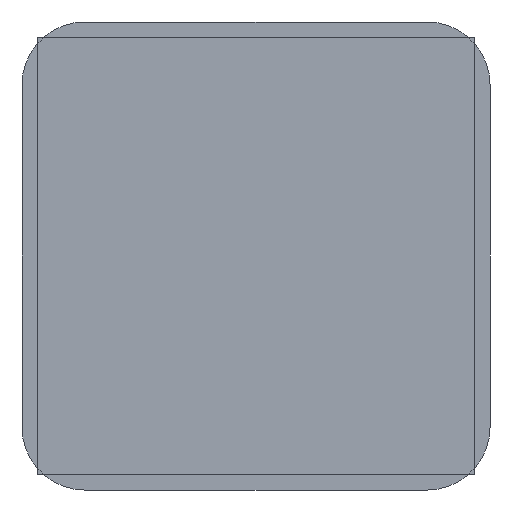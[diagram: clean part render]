
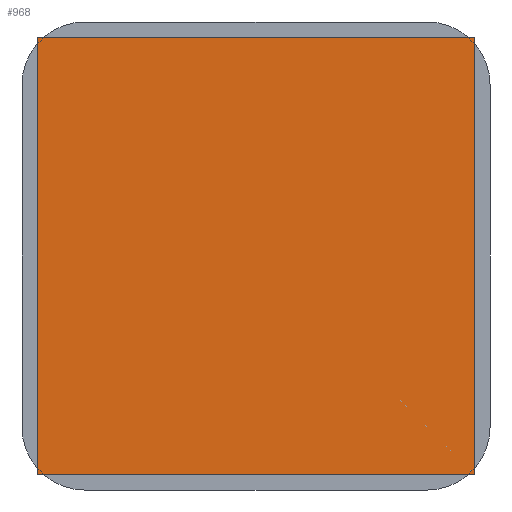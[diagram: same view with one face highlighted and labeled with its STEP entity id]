
A CAD part, front view. The second image highlights one B-rep face of the part: STEP entity #968.
In plain terms, the highlighted planar face has unit normal (0, -1, 0).
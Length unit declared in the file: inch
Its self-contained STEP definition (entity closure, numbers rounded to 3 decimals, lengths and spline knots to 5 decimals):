
#6 = EDGE_CURVE ( 'NONE', #4811, #1518, #3463, .T. ) ;
#12 = DIRECTION ( 'NONE',  ( 0., 0., 1. ) ) ;
#158 = LINE ( 'NONE', #4693, #2862 ) ;
#183 = DIRECTION ( 'NONE',  ( 0., -1., 0. ) ) ;
#267 = CARTESIAN_POINT ( 'NONE',  ( -0.45276, -0.00346, -0.45276 ) ) ;
#388 = ORIENTED_EDGE ( 'NONE', *, *, #771, .T. ) ;
#477 = CARTESIAN_POINT ( 'NONE',  ( 0.45276, -0.00346, 0.45276 ) ) ;
#600 = CARTESIAN_POINT ( 'NONE',  ( 0., -0.00346, 0. ) ) ;
#771 = EDGE_CURVE ( 'NONE', #3271, #3126, #3759, .T. ) ;
#968 = ADVANCED_FACE ( 'NONE', ( #3630 ), #4442, .T. ) ;
#1079 = CARTESIAN_POINT ( 'NONE',  ( 0.45276, -0.00346, 0.45276 ) ) ;
#1246 = VECTOR ( 'NONE', #2564, 39.37008 ) ;
#1313 = DIRECTION ( 'NONE',  ( 1., 0., 0. ) ) ;
#1331 = LINE ( 'NONE', #2849, #3520 ) ;
#1518 = VERTEX_POINT ( 'NONE', #1079 ) ;
#2037 = AXIS2_PLACEMENT_3D ( 'NONE', #600, #183, #3588 ) ;
#2249 = CARTESIAN_POINT ( 'NONE',  ( -0.45276, -0.00346, 0.45276 ) ) ;
#2392 = EDGE_LOOP ( 'NONE', ( #3887, #2777, #388, #3180 ) ) ;
#2564 = DIRECTION ( 'NONE',  ( 0., 0., -1. ) ) ;
#2777 = ORIENTED_EDGE ( 'NONE', *, *, #3009, .T. ) ;
#2849 = CARTESIAN_POINT ( 'NONE',  ( -0.45276, -0.00346, 0.45276 ) ) ;
#2862 = VECTOR ( 'NONE', #1313, 39.37008 ) ;
#2984 = CARTESIAN_POINT ( 'NONE',  ( -0.45276, -0.00346, 0.45276 ) ) ;
#3009 = EDGE_CURVE ( 'NONE', #1518, #3271, #1331, .T. ) ;
#3126 = VERTEX_POINT ( 'NONE', #267 ) ;
#3180 = ORIENTED_EDGE ( 'NONE', *, *, #3706, .T. ) ;
#3271 = VERTEX_POINT ( 'NONE', #2249 ) ;
#3298 = DIRECTION ( 'NONE',  ( -1., 0., 0. ) ) ;
#3463 = LINE ( 'NONE', #477, #4878 ) ;
#3520 = VECTOR ( 'NONE', #3298, 39.37008 ) ;
#3588 = DIRECTION ( 'NONE',  ( 0., 0., 1. ) ) ;
#3630 = FACE_OUTER_BOUND ( 'NONE', #2392, .T. ) ;
#3706 = EDGE_CURVE ( 'NONE', #3126, #4811, #158, .T. ) ;
#3759 = LINE ( 'NONE', #2984, #1246 ) ;
#3887 = ORIENTED_EDGE ( 'NONE', *, *, #6, .T. ) ;
#4442 = PLANE ( 'NONE',  #2037 ) ;
#4693 = CARTESIAN_POINT ( 'NONE',  ( -0.45276, -0.00346, -0.45276 ) ) ;
#4800 = CARTESIAN_POINT ( 'NONE',  ( 0.45276, -0.00346, -0.45276 ) ) ;
#4811 = VERTEX_POINT ( 'NONE', #4800 ) ;
#4878 = VECTOR ( 'NONE', #12, 39.37008 ) ;
